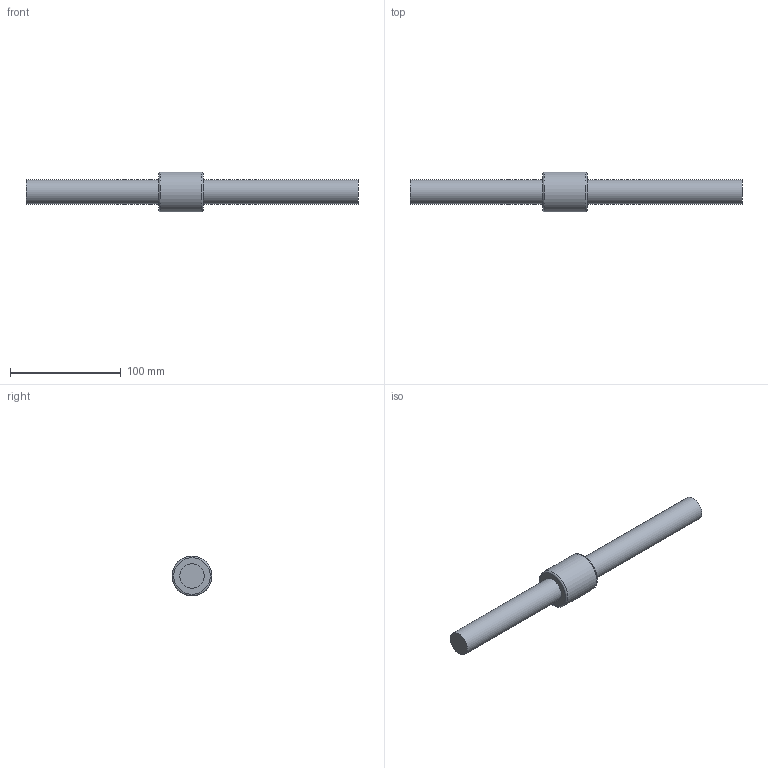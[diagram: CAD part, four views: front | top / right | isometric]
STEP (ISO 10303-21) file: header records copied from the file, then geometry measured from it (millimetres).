
FILE_DESCRIPTION((''),'2;1');
FILE_NAME('D:\製品 (図面)\カタログ用3D\ネジ関連\STEP形式\TMS\TMS22.stp','2010-06-02T15:32:38',('Tsuchiya'),(''),'Autodesk Inventor 10','Autodesk Inventor 10','');
FILE_SCHEMA(('AUTOMOTIVE_DESIGN { 1 0 10303 214 1 1 1 1 }'));
Length unit declared in the file: millimetre
Products named in the file (3): TMS22; TMS221; TMS222
Assembly tree (2 placements, depth 2):
  TMS22
    TMS221
    TMS222
Bounding box: 300 x 36 x 36 mm (x, y, z)
Volume: 139442.4 mm3; surface area: 29911.1 mm2
Topology: 2 solids, 2 shells, 9 faces, 13 edges, 8 vertices
Faces by surface type: plane 4, cylinder 3, torus 2
Full cylindrical faces by diameter (mm): 22 x2, 36 x1
Entity records: 254 total; most frequent: DIRECTION 44, CARTESIAN_POINT 30, AXIS2_PLACEMENT_3D 22, ORIENTED_EDGE 16, EDGE_LOOP 16, FACE_OUTER_BOUND 9, ADVANCED_FACE 9, VERTEX_POINT 8
